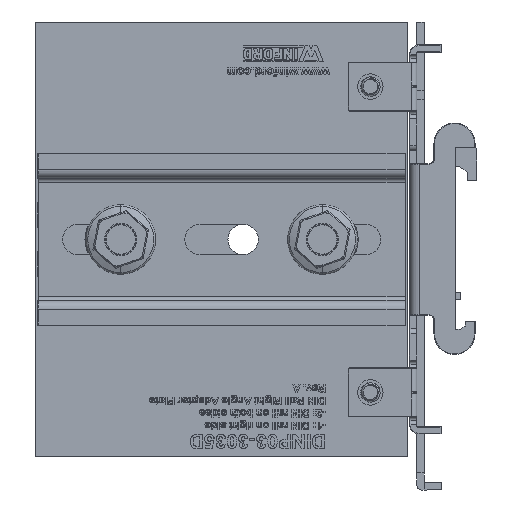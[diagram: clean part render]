
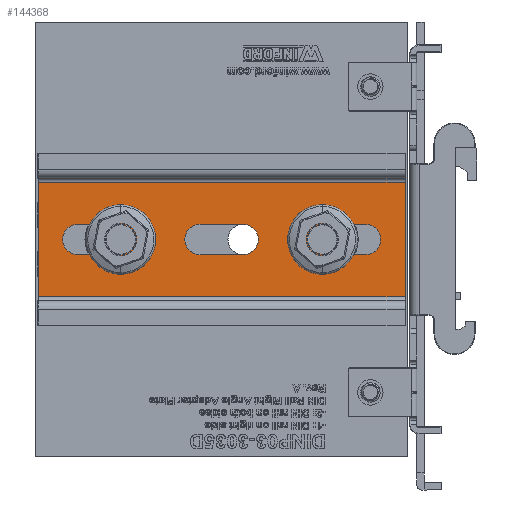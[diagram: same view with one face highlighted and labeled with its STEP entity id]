
A CAD part, front view. The second image highlights one B-rep face of the part: STEP entity #144368.
In plain terms, the highlighted planar face has unit normal (0, -1, 0) as drawn and (0, 1, 0) by its records, which use the part's own axes.
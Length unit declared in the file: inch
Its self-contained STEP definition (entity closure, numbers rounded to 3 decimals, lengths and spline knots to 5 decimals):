
#893 = VERTEX_POINT ( 'NONE', #87421 ) ;
#2112 = ORIENTED_EDGE ( 'NONE', *, *, #67453, .F. ) ;
#2978 = PLANE ( 'NONE',  #66186 ) ;
#3623 = ORIENTED_EDGE ( 'NONE', *, *, #16341, .F. ) ;
#4915 = AXIS2_PLACEMENT_3D ( 'NONE', #122431, #9160, #147928 ) ;
#5025 = CARTESIAN_POINT ( 'NONE',  ( 2.63386, 0.03937, -0.12205 ) ) ;
#6131 = CARTESIAN_POINT ( 'NONE',  ( 1.30315, 0.03937, 0.12205 ) ) ;
#6143 = CIRCLE ( 'NONE', #47170, 0.12205 ) ;
#9043 = CIRCLE ( 'NONE', #4915, 0.12205 ) ;
#9160 = DIRECTION ( 'NONE',  ( 0., 1., 0. ) ) ;
#10766 = DIRECTION ( 'NONE',  ( -1., 0., 0. ) ) ;
#11364 = AXIS2_PLACEMENT_3D ( 'NONE', #34939, #110868, #60881 ) ;
#11947 = ORIENTED_EDGE ( 'NONE', *, *, #138693, .F. ) ;
#12232 = ORIENTED_EDGE ( 'NONE', *, *, #130810, .F. ) ;
#16341 = EDGE_CURVE ( 'NONE', #53519, #53749, #40173, .T. ) ;
#19109 = EDGE_CURVE ( 'NONE', #32965, #127904, #126578, .T. ) ;
#20367 = CIRCLE ( 'NONE', #125986, 0.12205 ) ;
#22297 = CARTESIAN_POINT ( 'NONE',  ( 0.66535, 0.03937, -0.12205 ) ) ;
#25921 = LINE ( 'NONE', #100558, #95725 ) ;
#26256 = DIRECTION ( 'NONE',  ( 1., 0., 0. ) ) ;
#27999 = ORIENTED_EDGE ( 'NONE', *, *, #50387, .F. ) ;
#29343 = VERTEX_POINT ( 'NONE', #106800 ) ;
#29532 = CARTESIAN_POINT ( 'NONE',  ( 2.63386, 0.03937, 0.12205 ) ) ;
#29539 = ORIENTED_EDGE ( 'NONE', *, *, #66322, .F. ) ;
#30114 = CARTESIAN_POINT ( 'NONE',  ( 2.95276, 0.03937, -0.46063 ) ) ;
#32011 = EDGE_CURVE ( 'NONE', #32929, #88844, #9043, .T. ) ;
#32929 = VERTEX_POINT ( 'NONE', #104871 ) ;
#32965 = VERTEX_POINT ( 'NONE', #29532 ) ;
#33178 = FACE_BOUND ( 'NONE', #160931, .T. ) ;
#34939 = CARTESIAN_POINT ( 'NONE',  ( 2.63386, 0.03937, 0. ) ) ;
#35791 = ORIENTED_EDGE ( 'NONE', *, *, #36444, .F. ) ;
#36444 = EDGE_CURVE ( 'NONE', #137681, #893, #57076, .T. ) ;
#38397 = EDGE_CURVE ( 'NONE', #29343, #136118, #92698, .T. ) ;
#39488 = VECTOR ( 'NONE', #120924, 39.37008 ) ;
#40173 = LINE ( 'NONE', #160441, #141075 ) ;
#41385 = CARTESIAN_POINT ( 'NONE',  ( 2.95276, 0.03937, 0.46063 ) ) ;
#43253 = ORIENTED_EDGE ( 'NONE', *, *, #54503, .F. ) ;
#44626 = LINE ( 'NONE', #120951, #135904 ) ;
#45050 = VECTOR ( 'NONE', #125490, 39.37008 ) ;
#45614 = CARTESIAN_POINT ( 'NONE',  ( 2.2874, 0.03937, 0.12205 ) ) ;
#45972 = DIRECTION ( 'NONE',  ( -1., 0., 0. ) ) ;
#46624 = LINE ( 'NONE', #30114, #101011 ) ;
#47054 = DIRECTION ( 'NONE',  ( 0., 1., 0. ) ) ;
#47170 = AXIS2_PLACEMENT_3D ( 'NONE', #103703, #54854, #80165 ) ;
#48593 = EDGE_CURVE ( 'NONE', #79626, #53519, #6143, .T. ) ;
#50387 = EDGE_CURVE ( 'NONE', #88844, #137681, #93770, .T. ) ;
#51710 = CARTESIAN_POINT ( 'NONE',  ( 2.2874, 0.03937, -0.12205 ) ) ;
#53519 = VERTEX_POINT ( 'NONE', #22297 ) ;
#53749 = VERTEX_POINT ( 'NONE', #153945 ) ;
#54409 = DIRECTION ( 'NONE',  ( 1., 0., 0. ) ) ;
#54503 = EDGE_CURVE ( 'NONE', #136118, #72780, #121354, .T. ) ;
#54854 = DIRECTION ( 'NONE',  ( 0., 1., 0. ) ) ;
#54924 = CARTESIAN_POINT ( 'NONE',  ( 0., 0.03937, 0.46063 ) ) ;
#56459 = EDGE_CURVE ( 'NONE', #81764, #79626, #44626, .T. ) ;
#56606 = EDGE_LOOP ( 'NONE', ( #141196, #29539, #3623, #95611 ) ) ;
#57076 = CIRCLE ( 'NONE', #133447, 0.12205 ) ;
#60881 = DIRECTION ( 'NONE',  ( 0., 0., 1. ) ) ;
#62296 = ORIENTED_EDGE ( 'NONE', *, *, #32011, .F. ) ;
#62993 = DIRECTION ( 'NONE',  ( 0., 1., 0. ) ) ;
#64885 = ORIENTED_EDGE ( 'NONE', *, *, #19109, .F. ) ;
#66186 = AXIS2_PLACEMENT_3D ( 'NONE', #41385, #90164, #90723 ) ;
#66223 = EDGE_LOOP ( 'NONE', ( #97540, #43253, #137971, #88576 ) ) ;
#66322 = EDGE_CURVE ( 'NONE', #53749, #81764, #74629, .T. ) ;
#67453 = EDGE_CURVE ( 'NONE', #127904, #77591, #81834, .T. ) ;
#68132 = DIRECTION ( 'NONE',  ( 0., 0., 1. ) ) ;
#72780 = VERTEX_POINT ( 'NONE', #97847 ) ;
#74629 = CIRCLE ( 'NONE', #112098, 0.12205 ) ;
#75257 = DIRECTION ( 'NONE',  ( 1., 0., 0. ) ) ;
#75453 = DIRECTION ( 'NONE',  ( 0., 0., 1. ) ) ;
#76036 = LINE ( 'NONE', #54924, #116841 ) ;
#77591 = VERTEX_POINT ( 'NONE', #80353 ) ;
#79626 = VERTEX_POINT ( 'NONE', #113653 ) ;
#80011 = CARTESIAN_POINT ( 'NONE',  ( 0.3189, 0.03937, 0. ) ) ;
#80165 = DIRECTION ( 'NONE',  ( 0., 0., 1. ) ) ;
#80353 = CARTESIAN_POINT ( 'NONE',  ( 2.2874, 0.03937, -0.12205 ) ) ;
#81764 = VERTEX_POINT ( 'NONE', #87853 ) ;
#81834 = LINE ( 'NONE', #51710, #45050 ) ;
#81900 = CARTESIAN_POINT ( 'NONE',  ( 2.95276, 0.03937, 0.46063 ) ) ;
#84365 = EDGE_CURVE ( 'NONE', #77591, #106611, #20367, .T. ) ;
#87421 = CARTESIAN_POINT ( 'NONE',  ( 1.30315, 0.03937, 0.12205 ) ) ;
#87853 = CARTESIAN_POINT ( 'NONE',  ( 0.3189, 0.03937, 0.12205 ) ) ;
#88576 = ORIENTED_EDGE ( 'NONE', *, *, #133653, .T. ) ;
#88782 = VECTOR ( 'NONE', #132509, 39.37008 ) ;
#88844 = VERTEX_POINT ( 'NONE', #105844 ) ;
#89122 = LINE ( 'NONE', #6131, #118284 ) ;
#90164 = DIRECTION ( 'NONE',  ( 0., -1., 0. ) ) ;
#90723 = DIRECTION ( 'NONE',  ( 0., 0., -1. ) ) ;
#90806 = EDGE_LOOP ( 'NONE', ( #11947, #35791, #27999, #62296 ) ) ;
#92698 = LINE ( 'NONE', #81900, #88782 ) ;
#93770 = LINE ( 'NONE', #121464, #39488 ) ;
#94778 = CARTESIAN_POINT ( 'NONE',  ( 2.2874, 0.03937, 0. ) ) ;
#95611 = ORIENTED_EDGE ( 'NONE', *, *, #48593, .F. ) ;
#95725 = VECTOR ( 'NONE', #26256, 39.37008 ) ;
#97540 = ORIENTED_EDGE ( 'NONE', *, *, #140550, .T. ) ;
#97847 = CARTESIAN_POINT ( 'NONE',  ( 0., 0.03937, 0.46063 ) ) ;
#100558 = CARTESIAN_POINT ( 'NONE',  ( 2.2874, 0.03937, 0.12205 ) ) ;
#101011 = VECTOR ( 'NONE', #129870, 39.37008 ) ;
#101263 = CARTESIAN_POINT ( 'NONE',  ( 2.95276, 0.03937, 0.46063 ) ) ;
#103703 = CARTESIAN_POINT ( 'NONE',  ( 0.66535, 0.03937, 0. ) ) ;
#104871 = CARTESIAN_POINT ( 'NONE',  ( 1.64961, 0.03937, 0.12205 ) ) ;
#105109 = DIRECTION ( 'NONE',  ( 0., 1., 0. ) ) ;
#105844 = CARTESIAN_POINT ( 'NONE',  ( 1.64961, 0.03937, -0.12205 ) ) ;
#106611 = VERTEX_POINT ( 'NONE', #45614 ) ;
#106800 = CARTESIAN_POINT ( 'NONE',  ( 2.95276, 0.03937, -0.46063 ) ) ;
#108361 = DIRECTION ( 'NONE',  ( 0., 0., 1. ) ) ;
#110868 = DIRECTION ( 'NONE',  ( 0., 1., 0. ) ) ;
#110893 = FACE_BOUND ( 'NONE', #56606, .T. ) ;
#112098 = AXIS2_PLACEMENT_3D ( 'NONE', #80011, #105109, #68132 ) ;
#112774 = FACE_BOUND ( 'NONE', #90806, .T. ) ;
#113637 = VECTOR ( 'NONE', #45972, 39.37008 ) ;
#113653 = CARTESIAN_POINT ( 'NONE',  ( 0.66535, 0.03937, 0.12205 ) ) ;
#114814 = VERTEX_POINT ( 'NONE', #129347 ) ;
#116605 = FACE_OUTER_BOUND ( 'NONE', #66223, .T. ) ;
#116841 = VECTOR ( 'NONE', #156313, 39.37008 ) ;
#117074 = ORIENTED_EDGE ( 'NONE', *, *, #84365, .F. ) ;
#118284 = VECTOR ( 'NONE', #54409, 39.37008 ) ;
#120807 = CARTESIAN_POINT ( 'NONE',  ( 2.95276, 0.03937, 0.46063 ) ) ;
#120924 = DIRECTION ( 'NONE',  ( -1., 0., 0. ) ) ;
#120951 = CARTESIAN_POINT ( 'NONE',  ( 0.3189, 0.03937, 0.12205 ) ) ;
#121354 = LINE ( 'NONE', #120807, #113637 ) ;
#121464 = CARTESIAN_POINT ( 'NONE',  ( 1.30315, 0.03937, -0.12205 ) ) ;
#122431 = CARTESIAN_POINT ( 'NONE',  ( 1.64961, 0.03937, 0. ) ) ;
#125490 = DIRECTION ( 'NONE',  ( -1., 0., 0. ) ) ;
#125986 = AXIS2_PLACEMENT_3D ( 'NONE', #94778, #47054, #108361 ) ;
#126578 = CIRCLE ( 'NONE', #11364, 0.12205 ) ;
#127904 = VERTEX_POINT ( 'NONE', #5025 ) ;
#129347 = CARTESIAN_POINT ( 'NONE',  ( 0., 0.03937, -0.46063 ) ) ;
#129870 = DIRECTION ( 'NONE',  ( -1., 0., 0. ) ) ;
#130810 = EDGE_CURVE ( 'NONE', #106611, #32965, #25921, .T. ) ;
#131392 = CARTESIAN_POINT ( 'NONE',  ( 1.30315, 0.03937, -0.12205 ) ) ;
#132509 = DIRECTION ( 'NONE',  ( 0., 0., 1. ) ) ;
#133447 = AXIS2_PLACEMENT_3D ( 'NONE', #137355, #62993, #75453 ) ;
#133653 = EDGE_CURVE ( 'NONE', #29343, #114814, #46624, .T. ) ;
#135904 = VECTOR ( 'NONE', #75257, 39.37008 ) ;
#136118 = VERTEX_POINT ( 'NONE', #101263 ) ;
#137355 = CARTESIAN_POINT ( 'NONE',  ( 1.30315, 0.03937, 0. ) ) ;
#137681 = VERTEX_POINT ( 'NONE', #131392 ) ;
#137971 = ORIENTED_EDGE ( 'NONE', *, *, #38397, .F. ) ;
#138693 = EDGE_CURVE ( 'NONE', #893, #32929, #89122, .T. ) ;
#140550 = EDGE_CURVE ( 'NONE', #114814, #72780, #76036, .T. ) ;
#141075 = VECTOR ( 'NONE', #10766, 39.37008 ) ;
#141196 = ORIENTED_EDGE ( 'NONE', *, *, #56459, .F. ) ;
#144368 = ADVANCED_FACE ( 'NONE', ( #112774, #110893, #116605, #33178 ), #2978, .F. ) ;
#147928 = DIRECTION ( 'NONE',  ( 0., 0., 1. ) ) ;
#153945 = CARTESIAN_POINT ( 'NONE',  ( 0.3189, 0.03937, -0.12205 ) ) ;
#156313 = DIRECTION ( 'NONE',  ( 0., 0., 1. ) ) ;
#160441 = CARTESIAN_POINT ( 'NONE',  ( 0.3189, 0.03937, -0.12205 ) ) ;
#160931 = EDGE_LOOP ( 'NONE', ( #117074, #2112, #64885, #12232 ) ) ;
